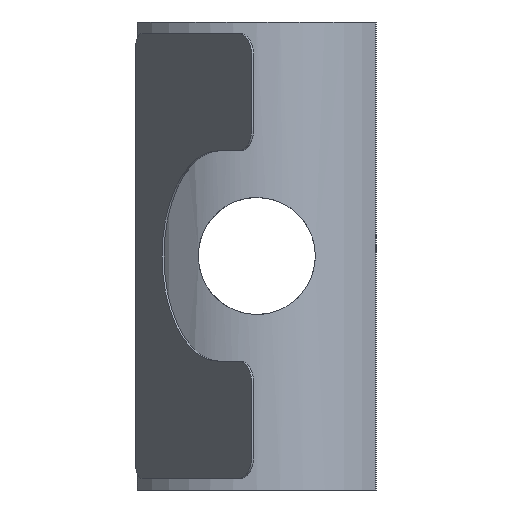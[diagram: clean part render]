
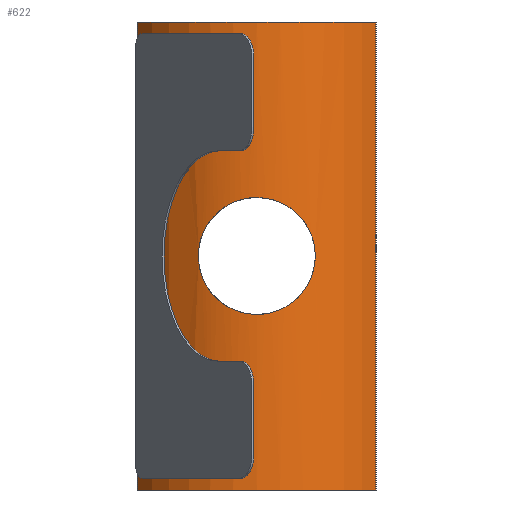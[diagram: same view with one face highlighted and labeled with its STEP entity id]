
A CAD part, front view. The second image highlights one B-rep face of the part: STEP entity #622.
In plain terms, the highlighted cylindrical face has radius 6.01 mm (diameter 12.02 mm), a partial arc.
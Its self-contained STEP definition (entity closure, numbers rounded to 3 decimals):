
#1 = VERTEX_POINT ( 'NONE', #1183 ) ;
#2 = CARTESIAN_POINT ( 'NONE',  ( 6.419, -3.489, 9.346 ) ) ;
#7 = CARTESIAN_POINT ( 'NONE',  ( 5.653, -3.766, 8.117 ) ) ;
#8 = CARTESIAN_POINT ( 'NONE',  ( 2.014, -3.66, 11.527 ) ) ;
#13 = CARTESIAN_POINT ( 'NONE',  ( 2.117, -3.695, 11.652 ) ) ;
#48 = CARTESIAN_POINT ( 'NONE',  ( 1.517, -3.46, 9.667 ) ) ;
#50 = DIRECTION ( 'NONE',  ( 0., 0., 1. ) ) ;
#59 = VERTEX_POINT ( 'NONE', #950 ) ;
#89 = CARTESIAN_POINT ( 'NONE',  ( 4., 2.013, 20. ) ) ;
#105 = CARTESIAN_POINT ( 'NONE',  ( 4.662, -3.968, 7.567 ) ) ;
#106 = CARTESIAN_POINT ( 'NONE',  ( 4., 2.013, 20. ) ) ;
#115 = ORIENTED_EDGE ( 'NONE', *, *, #540, .T. ) ;
#117 = EDGE_CURVE ( 'NONE', #273, #750, #1322, .T. ) ;
#143 = CARTESIAN_POINT ( 'NONE',  ( 1.5, -3.452, 10.329 ) ) ;
#149 = CARTESIAN_POINT ( 'NONE',  ( 9.084, -1.192, 20. ) ) ;
#154 = ORIENTED_EDGE ( 'NONE', *, *, #1106, .T. ) ;
#181 = CARTESIAN_POINT ( 'NONE',  ( 4.331, -3.99, 12.483 ) ) ;
#197 = CARTESIAN_POINT ( 'NONE',  ( 6.182, -3.588, 11.263 ) ) ;
#205 = CARTESIAN_POINT ( 'NONE',  ( 6.244, -3.563, 8.885 ) ) ;
#210 = CARTESIAN_POINT ( 'NONE',  ( 5.881, -3.696, 8.346 ) ) ;
#211 = CARTESIAN_POINT ( 'NONE',  ( 3.188, -3.944, 12.37 ) ) ;
#218 = VECTOR ( 'NONE', #50, 1000. ) ;
#256 = ORIENTED_EDGE ( 'NONE', *, *, #612, .T. ) ;
#273 = VERTEX_POINT ( 'NONE', #1104 ) ;
#279 = CARTESIAN_POINT ( 'NONE',  ( 9.084, -1.192, 20. ) ) ;
#282 = VERTEX_POINT ( 'NONE', #279 ) ;
#298 = CARTESIAN_POINT ( 'NONE',  ( 4.813, -3.943, 12.37 ) ) ;
#304 = CARTESIAN_POINT ( 'NONE',  ( 5.115, -3.894, 12.243 ) ) ;
#314 = CARTESIAN_POINT ( 'NONE',  ( 6.371, -3.51, 9.189 ) ) ;
#316 = CARTESIAN_POINT ( 'NONE',  ( 6.484, -3.46, 10.33 ) ) ;
#320 = LINE ( 'NONE', #149, #218 ) ;
#352 = CARTESIAN_POINT ( 'NONE',  ( 1.755, -3.562, 8.887 ) ) ;
#361 = CARTESIAN_POINT ( 'NONE',  ( 3.188, -3.944, 7.63 ) ) ;
#364 = CARTESIAN_POINT ( 'NONE',  ( 9.084, -1.192, 0. ) ) ;
#403 = CARTESIAN_POINT ( 'NONE',  ( 5.655, -3.766, 11.881 ) ) ;
#406 = CARTESIAN_POINT ( 'NONE',  ( 4.167, -3.997, 12.5 ) ) ;
#416 = CARTESIAN_POINT ( 'NONE',  ( 5.528, -3.801, 8.015 ) ) ;
#419 = CARTESIAN_POINT ( 'NONE',  ( 4., -3.997, 12.5 ) ) ;
#454 = CARTESIAN_POINT ( 'NONE',  ( 4., -3.997, 7.5 ) ) ;
#515 = ORIENTED_EDGE ( 'NONE', *, *, #980, .F. ) ;
#531 = CARTESIAN_POINT ( 'NONE',  ( 6.5, -3.452, 10.167 ) ) ;
#532 = CARTESIAN_POINT ( 'NONE',  ( 2.741, -3.865, 12.166 ) ) ;
#536 = ORIENTED_EDGE ( 'NONE', *, *, #609, .T. ) ;
#540 = EDGE_CURVE ( 'NONE', #750, #282, #320, .T. ) ;
#570 = CARTESIAN_POINT ( 'NONE',  ( 2.346, -3.766, 8.119 ) ) ;
#571 = DIRECTION ( 'NONE',  ( 0., 0., -1. ) ) ;
#575 = CARTESIAN_POINT ( 'NONE',  ( 2.014, -3.66, 8.473 ) ) ;
#577 = CARTESIAN_POINT ( 'NONE',  ( 1.567, -3.484, 10.661 ) ) ;
#608 = CARTESIAN_POINT ( 'NONE',  ( 4.654, -3.963, 12.419 ) ) ;
#609 = EDGE_CURVE ( 'NONE', #1246, #273, #784, .T. ) ;
#612 = EDGE_CURVE ( 'NONE', #59, #1, #844, .T. ) ;
#622 = ADVANCED_FACE ( 'NONE', ( #656, #1295 ), #992, .T. ) ;
#626 = CARTESIAN_POINT ( 'NONE',  ( 6.166, -3.593, 8.742 ) ) ;
#628 = CARTESIAN_POINT ( 'NONE',  ( 3.667, -3.99, 12.483 ) ) ;
#633 = DIRECTION ( 'NONE',  ( -1., 0., 0. ) ) ;
#656 = FACE_BOUND ( 'NONE', #994, .T. ) ;
#663 = CARTESIAN_POINT ( 'NONE',  ( 2.885, -3.894, 7.756 ) ) ;
#665 = AXIS2_PLACEMENT_3D ( 'NONE', #793, #1301, #897 ) ;
#669 = CARTESIAN_POINT ( 'NONE',  ( 1.834, -3.594, 8.742 ) ) ;
#688 = AXIS2_PLACEMENT_3D ( 'NONE', #89, #828, #714 ) ;
#696 = B_SPLINE_CURVE_WITH_KNOTS ( 'NONE', 3,
 ( #1223, #406, #181, #608, #298, #304, #927, #1028, #403, #1129, #197, #835, #937, #316, #531, #1236, #720, #2, #314, #205, #626, #1042, #210, #7, #416, #1141, #727, #105, #839, #942 ),
 .UNSPECIFIED., .F., .F.,
 ( 4, 2, 2, 2, 2, 2, 2, 2, 2, 2, 2, 2, 2, 2, 4 ),
 ( 0., 0., 0.001, 0.001, 0.002, 0.003, 0.003, 0.004, 0.004, 0.005, 0.005, 0.006, 0.006, 0.007, 0.008 ),
 .UNSPECIFIED. ) ;
#714 = DIRECTION ( 'NONE',  ( 1., 0., 0. ) ) ;
#720 = CARTESIAN_POINT ( 'NONE',  ( 6.483, -3.46, 9.669 ) ) ;
#724 = AXIS2_PLACEMENT_3D ( 'NONE', #106, #840, #633 ) ;
#727 = CARTESIAN_POINT ( 'NONE',  ( 5.113, -3.895, 7.755 ) ) ;
#728 = CARTESIAN_POINT ( 'NONE',  ( 3.833, -3.997, 12.5 ) ) ;
#729 = CARTESIAN_POINT ( 'NONE',  ( 2.346, -3.766, 11.882 ) ) ;
#750 = VERTEX_POINT ( 'NONE', #364 ) ;
#759 = VECTOR ( 'NONE', #571, 1000. ) ;
#760 = CARTESIAN_POINT ( 'NONE',  ( -1.084, -1.192, 20. ) ) ;
#774 = CARTESIAN_POINT ( 'NONE',  ( 1.5, -3.452, 9.835 ) ) ;
#784 = LINE ( 'NONE', #886, #759 ) ;
#793 = CARTESIAN_POINT ( 'NONE',  ( 4., 2.013, 0. ) ) ;
#828 = DIRECTION ( 'NONE',  ( 0., 0., 1. ) ) ;
#835 = CARTESIAN_POINT ( 'NONE',  ( 6.37, -3.51, 10.813 ) ) ;
#839 = CARTESIAN_POINT ( 'NONE',  ( 4.329, -3.997, 7.5 ) ) ;
#840 = DIRECTION ( 'NONE',  ( 0., 0., -1. ) ) ;
#844 = B_SPLINE_CURVE_WITH_KNOTS ( 'NONE', 3,
 ( #454, #1289, #983, #880, #361, #663, #1088, #1182, #570, #1080, #575, #669, #352, #1177, #1281, #48, #774, #143, #577, #905, #1226, #8, #13, #729, #1142, #532, #1237, #211, #943, #628, #728, #419 ),
 .UNSPECIFIED., .F., .F.,
 ( 4, 2, 2, 2, 2, 2, 2, 2, 2, 2, 2, 2, 2, 2, 2, 4 ),
 ( 0.008, 0.008, 0.009, 0.009, 0.01, 0.01, 0.011, 0.011, 0.012, 0.013, 0.013, 0.014, 0.014, 0.015, 0.015, 0.016 ),
 .UNSPECIFIED. ) ;
#880 = CARTESIAN_POINT ( 'NONE',  ( 3.344, -3.963, 7.582 ) ) ;
#886 = CARTESIAN_POINT ( 'NONE',  ( -1.084, -1.192, 20. ) ) ;
#897 = DIRECTION ( 'NONE',  ( 1., 0., 0. ) ) ;
#905 = CARTESIAN_POINT ( 'NONE',  ( 1.755, -3.562, 11.113 ) ) ;
#927 = CARTESIAN_POINT ( 'NONE',  ( 5.258, -3.865, 12.166 ) ) ;
#936 = CIRCLE ( 'NONE', #688, 6.01 ) ;
#937 = CARTESIAN_POINT ( 'NONE',  ( 6.419, -3.489, 10.654 ) ) ;
#942 = CARTESIAN_POINT ( 'NONE',  ( 4., -3.997, 7.5 ) ) ;
#943 = CARTESIAN_POINT ( 'NONE',  ( 3.345, -3.963, 12.418 ) ) ;
#950 = CARTESIAN_POINT ( 'NONE',  ( 4., -3.997, 7.5 ) ) ;
#980 = EDGE_CURVE ( 'NONE', #1246, #282, #936, .T. ) ;
#983 = CARTESIAN_POINT ( 'NONE',  ( 3.668, -3.99, 7.517 ) ) ;
#992 = CYLINDRICAL_SURFACE ( 'NONE', #724, 6.01 ) ;
#994 = EDGE_LOOP ( 'NONE', ( #154, #256 ) ) ;
#1028 = CARTESIAN_POINT ( 'NONE',  ( 5.529, -3.801, 11.985 ) ) ;
#1042 = CARTESIAN_POINT ( 'NONE',  ( 5.986, -3.66, 8.473 ) ) ;
#1080 = CARTESIAN_POINT ( 'NONE',  ( 2.116, -3.695, 8.349 ) ) ;
#1088 = CARTESIAN_POINT ( 'NONE',  ( 2.74, -3.865, 7.835 ) ) ;
#1102 = EDGE_LOOP ( 'NONE', ( #1296, #115, #515, #536 ) ) ;
#1104 = CARTESIAN_POINT ( 'NONE',  ( -1.084, -1.192, 0. ) ) ;
#1106 = EDGE_CURVE ( 'NONE', #1, #59, #696, .T. ) ;
#1129 = CARTESIAN_POINT ( 'NONE',  ( 5.997, -3.66, 11.538 ) ) ;
#1141 = CARTESIAN_POINT ( 'NONE',  ( 5.258, -3.865, 7.834 ) ) ;
#1142 = CARTESIAN_POINT ( 'NONE',  ( 2.472, -3.801, 11.986 ) ) ;
#1177 = CARTESIAN_POINT ( 'NONE',  ( 1.63, -3.51, 9.189 ) ) ;
#1182 = CARTESIAN_POINT ( 'NONE',  ( 2.471, -3.801, 8.015 ) ) ;
#1183 = CARTESIAN_POINT ( 'NONE',  ( 4., -3.997, 12.5 ) ) ;
#1223 = CARTESIAN_POINT ( 'NONE',  ( 4., -3.997, 12.5 ) ) ;
#1226 = CARTESIAN_POINT ( 'NONE',  ( 1.834, -3.593, 11.258 ) ) ;
#1236 = CARTESIAN_POINT ( 'NONE',  ( 6.5, -3.452, 9.836 ) ) ;
#1237 = CARTESIAN_POINT ( 'NONE',  ( 2.884, -3.894, 12.243 ) ) ;
#1246 = VERTEX_POINT ( 'NONE', #760 ) ;
#1281 = CARTESIAN_POINT ( 'NONE',  ( 1.582, -3.489, 9.344 ) ) ;
#1289 = CARTESIAN_POINT ( 'NONE',  ( 3.835, -3.997, 7.5 ) ) ;
#1295 = FACE_OUTER_BOUND ( 'NONE', #1102, .T. ) ;
#1296 = ORIENTED_EDGE ( 'NONE', *, *, #117, .T. ) ;
#1301 = DIRECTION ( 'NONE',  ( 0., 0., 1. ) ) ;
#1322 = CIRCLE ( 'NONE', #665, 6.01 ) ;
